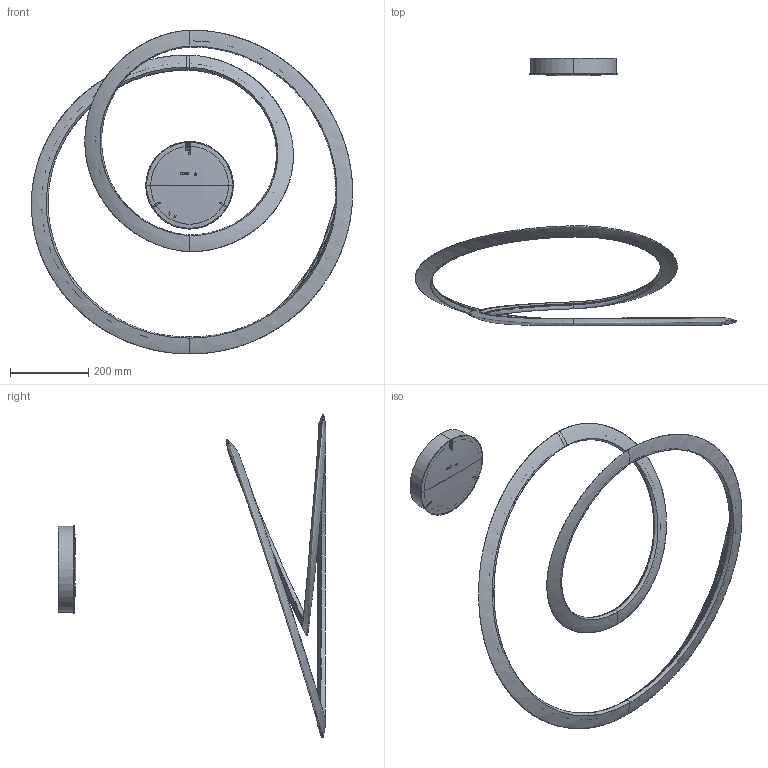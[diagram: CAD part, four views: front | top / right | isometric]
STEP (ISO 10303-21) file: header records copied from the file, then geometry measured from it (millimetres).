
FILE_DESCRIPTION (( 'STEP AP203' ), '1' );
FILE_NAME ('3D_KEPLER_UP_LIGHT.STEP', '2022-04-06T09:54:49', ( '' ), ( '' ), 'SwSTEP 2.0', 'SolidWorks 2016', '' );
FILE_SCHEMA (( 'CONFIG_CONTROL_DESIGN' ));
Length unit declared in the file: millimetre
Products named in the file (5): 052KEP700300_A_DIFFUSORE KEPLER APPLICATOMARTI-1^3D_KEPLER_UP_LIGHT; 049KEP700100_CORPO KEPLER_DEFINITVOMARTI-1^3D_KEPLER_UP_LIGHT; Group3^3D_KEPLER_UP_LIGHT; ROSONE; 3D_KEPLER_UP_LIGHT
Assembly tree (4 placements, depth 3):
  3D_KEPLER_UP_LIGHT
    052KEP700300_A_DIFFUSORE KEPLER APPLICATOMARTI-1^3D_KEPLER_UP_LIGHT
    049KEP700100_CORPO KEPLER_DEFINITVOMARTI-1^3D_KEPLER_UP_LIGHT
    ROSONE
      Group3^3D_KEPLER_UP_LIGHT
Bounding box: 822.11 x 684.91 x 828.66 mm (x, y, z)
Volume: 2965409.9 mm3; surface area: 822813.4 mm2
Topology: 3 solids, 3 shells, 273 faces, 765 edges, 504 vertices
Faces by surface type: bspline 126, plane 123, cylinder 21, cone 3
Entity records: 34143 total; most frequent: CARTESIAN_POINT 27862, ORIENTED_EDGE 1530, EDGE_CURVE 765, DIRECTION 650, VERTEX_POINT 504, B_SPLINE_CURVE_WITH_KNOTS 460, EDGE_LOOP 287, ADVANCED_FACE 273
